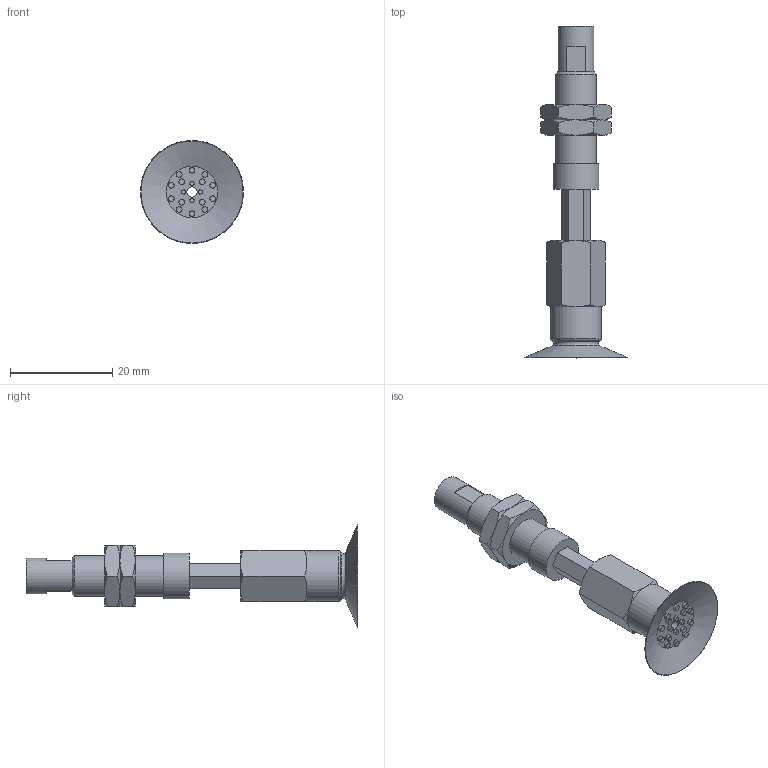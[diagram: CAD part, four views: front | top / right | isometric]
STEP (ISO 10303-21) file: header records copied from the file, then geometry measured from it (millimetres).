
FILE_DESCRIPTION(('STEP AP203'),'1');
FILE_NAME('.stp','2025-08-21T08:30:27',(' '),(' '),'Spatial InterOp 3D',' ',' ');
FILE_SCHEMA(('CONFIG_CONTROL_DESIGN'));
Length unit declared in the file: millimetre
Products named in the file (6): BNABPATH-20A-10-※; ADAPTER; NAPATH-10A-10--M; NAPATH-20A-10--F; Nut-10A-S; BPAG-20A-※
Assembly tree (6 placements, depth 2):
  BNABPATH-20A-10-※
    ADAPTER
    NAPATH-10A-10--M
    NAPATH-20A-10--F
    Nut-10A-S  x2
    BPAG-20A-※
Bounding box: 20.19 x 65 x 20.19 mm (x, y, z)
Volume: 3821.3 mm3; surface area: 4707.8 mm2
Topology: 6 solids, 6 shells, 159 faces, 319 edges, 197 vertices
Faces by surface type: plane 71, cone 46, cylinder 32, torus 10
Full cylindrical faces by diameter (mm): 0.9 x4, 1.1 x14, 2 x3, 4 x2, 4.134 x1, 6 x2, 7 x1, 7.188 x2, 8 x1, 9 x1, 10 x1
Entity records: 3700 total; most frequent: CARTESIAN_POINT 805, DIRECTION 558, ORIENTED_EDGE 426, AXIS2_PLACEMENT_3D 250, EDGE_LOOP 220, EDGE_CURVE 213, FACE_OUTER_BOUND 177, VERTEX_POINT 161
